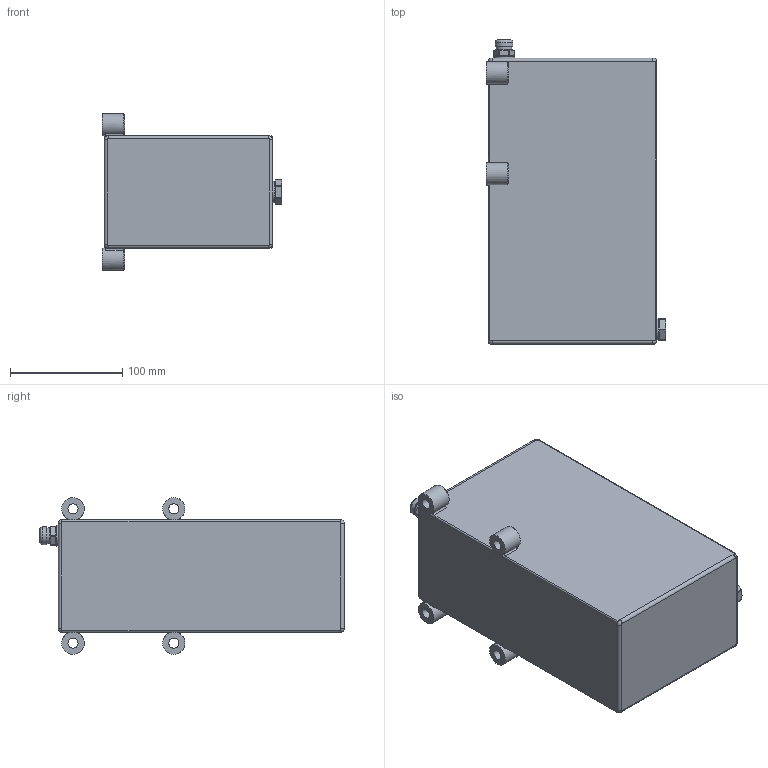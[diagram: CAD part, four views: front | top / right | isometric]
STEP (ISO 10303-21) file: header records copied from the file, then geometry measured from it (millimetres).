
FILE_DESCRIPTION (( 'STEP AP214' ), '1' );
FILE_NAME ('17900003.STEP', '2020-06-23T09:44:37', ( '' ), ( '' ), 'SwSTEP 2.0', 'SolidWorks 2017', '' );
FILE_SCHEMA (( 'AUTOMOTIVE_DESIGN' ));
Length unit declared in the file: millimetre
Products named in the file (1): 17900003
Bounding box: 160.5 x 271.5 x 140 mm (x, y, z)
Surface area: 282187.5 mm2 (no closed solid volume)
Topology: 0 solids, 7 shells, 161 faces, 418 edges, 270 vertices
Faces by surface type: plane 67, cylinder 61, cone 22, torus 10, bspline 1
Full cylindrical faces by diameter (mm): 1.5 x1, 9 x8, 11 x4, 14 x1, 16 x1, 17 x1, 18 x1, 19 x2, 20 x4
Entity records: 5301 total; most frequent: CARTESIAN_POINT 867, DIRECTION 822, ORIENTED_EDGE 622, AXIS2_PLACEMENT_3D 341, EDGE_CURVE 336, VERTEX_POINT 236, EDGE_LOOP 234, FACE_OUTER_BOUND 187
